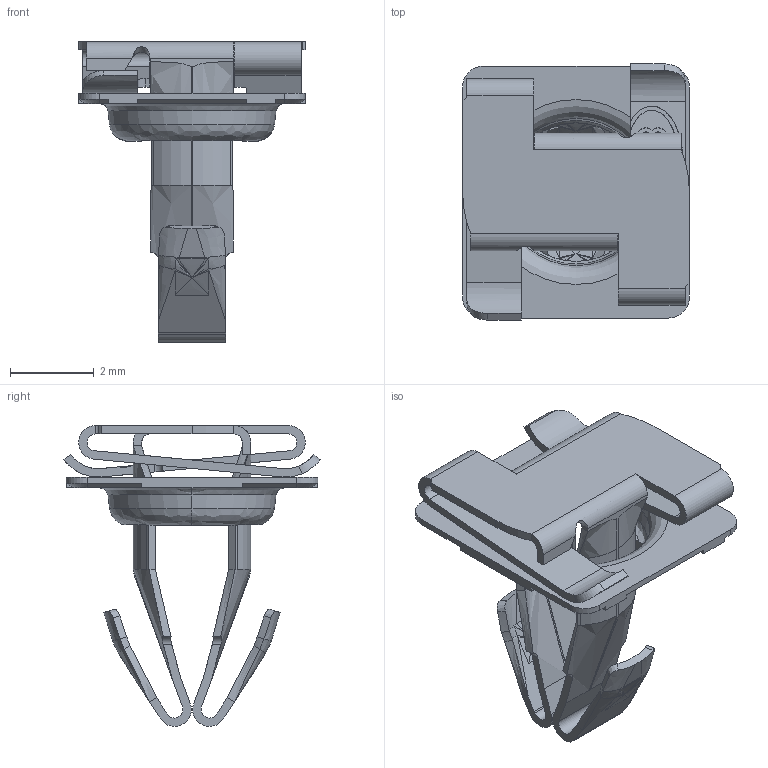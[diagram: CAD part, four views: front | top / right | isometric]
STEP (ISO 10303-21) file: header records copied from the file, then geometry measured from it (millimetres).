
FILE_DESCRIPTION(('CAx-IF Rec.Pracs.---Model Styling and Organization---1.2---2011-12-15','CAx-IF Rec.Pracs.---Geometric and Assembly Validation Properties---4.1---2014-06-16','CAx-IF Rec.Pracs.---PMI Polyline Presentation---2.0---2013-05-24'),'2;1');
FILE_NAME('01ZY21CY0N.stp','2020-02-21T13:43:09+01:00',(''),(''),'STEP Interface 4.3 by CT CoreTechnologie','3D_Evolution4.3 by CT CoreTechnologie','');
FILE_SCHEMA(('AP203_CONFIGURATION_CONTROLLED_3D_DESIGN_OF_MECHANICAL_PARTS_AND_ASSEMBLIES_MIM_LF'));
Length unit declared in the file: millimetre
Products named in the file (3): 01ZY21CY0N; 01Z-21A-0C; 01Z-201-02
Assembly tree (2 placements, depth 2):
  01ZY21CY0N
    01Z-21A-0C
    01Z-201-02
Bounding box: 5.4 x 6.1 x 7.16 mm (x, y, z)
Volume: 23.4 mm3; surface area: 234.2 mm2
Topology: 2 solids, 2 shells, 347 faces, 906 edges, 524 vertices
Faces by surface type: plane 153, bspline 134, cylinder 60
Entity records: 69553 total; most frequent: PROPERTY_DEFINITION 9625, CARTESIAN_POINT 5196, SHAPE_REPRESENTATION 4814, REPRESENTATION 4814, GENERAL_PROPERTY 4814, PROPERTY_DEFINITION_REPRESENTATION 4814, GENERAL_PROPERTY_ASSOCIATION 4814, SHAPE_DEFINITION_REPRESENTATION 4814
